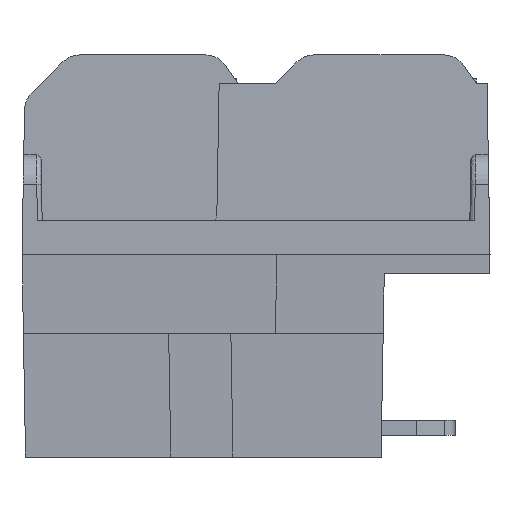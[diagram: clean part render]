
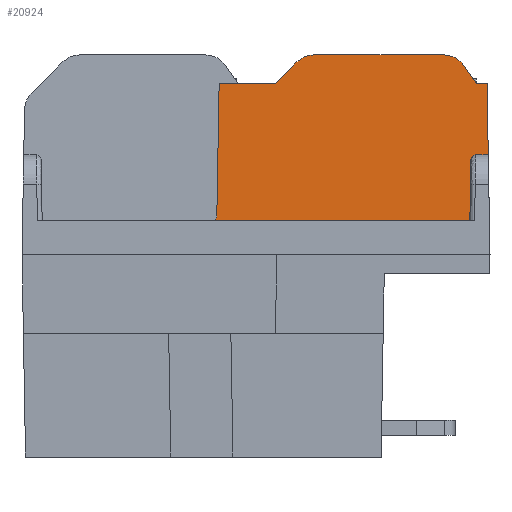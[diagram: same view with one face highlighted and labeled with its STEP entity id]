
A CAD part, left-side view. The second image highlights one B-rep face of the part: STEP entity #20924.
In plain terms, the highlighted planar face has unit normal (-1, 0, 0.018).
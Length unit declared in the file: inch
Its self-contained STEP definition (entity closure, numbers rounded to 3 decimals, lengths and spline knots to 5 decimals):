
#769=ELLIPSE('',#22205,0.01,0.01);
#776=ELLIPSE('',#22218,0.01,0.01);
#777=ELLIPSE('',#22219,0.05001,0.05);
#778=ELLIPSE('',#22220,0.05001,0.05);
#1201=FACE_OUTER_BOUND('',#2339,.T.);
#2339=EDGE_LOOP('',(#15105,#15106,#15107,#15108,#15109,#15110,#15111,#15112,
#15113,#15114,#15115,#15116,#15117,#15118));
#3323=LINE('',#28932,#5932);
#3420=LINE('',#29149,#6029);
#3944=LINE('',#30186,#6553);
#4165=LINE('',#30895,#6774);
#4176=LINE('',#30930,#6785);
#4177=LINE('',#30933,#6786);
#4178=LINE('',#30936,#6787);
#4179=LINE('',#30938,#6788);
#4180=LINE('',#30942,#6789);
#4181=LINE('',#30945,#6790);
#5932=VECTOR('',#23468,0.3937);
#6029=VECTOR('',#23595,0.3937);
#6553=VECTOR('',#24413,0.3937);
#6774=VECTOR('',#24780,0.3937);
#6785=VECTOR('',#24811,0.3937);
#6786=VECTOR('',#24814,0.3937);
#6787=VECTOR('',#24817,0.3937);
#6788=VECTOR('',#24818,0.3937);
#6789=VECTOR('',#24821,0.3937);
#6790=VECTOR('',#24824,0.3937);
#8535=VERTEX_POINT('',#28929);
#8536=VERTEX_POINT('',#28931);
#8628=VERTEX_POINT('',#29147);
#8993=VERTEX_POINT('',#30183);
#8994=VERTEX_POINT('',#30185);
#9166=VERTEX_POINT('',#30888);
#9167=VERTEX_POINT('',#30890);
#9168=VERTEX_POINT('',#30894);
#9183=VERTEX_POINT('',#30932);
#9184=VERTEX_POINT('',#30934);
#9185=VERTEX_POINT('',#30937);
#9186=VERTEX_POINT('',#30939);
#9187=VERTEX_POINT('',#30941);
#9188=VERTEX_POINT('',#30943);
#10555=EDGE_CURVE('',#8535,#8536,#3323,.T.);
#10657=EDGE_CURVE('',#8628,#8535,#3420,.T.);
#11183=EDGE_CURVE('',#8993,#8994,#3944,.T.);
#11440=EDGE_CURVE('',#9166,#9167,#769,.T.);
#11442=EDGE_CURVE('',#9168,#9166,#4165,.T.);
#11461=EDGE_CURVE('',#8993,#9167,#4176,.T.);
#11462=EDGE_CURVE('',#9183,#9168,#4177,.F.);
#11463=EDGE_CURVE('',#9184,#9183,#776,.F.);
#11464=EDGE_CURVE('',#8536,#9184,#4178,.F.);
#11465=EDGE_CURVE('',#9185,#8628,#4179,.T.);
#11466=EDGE_CURVE('',#9186,#9185,#777,.T.);
#11467=EDGE_CURVE('',#9187,#9186,#4180,.T.);
#11468=EDGE_CURVE('',#9188,#9187,#778,.T.);
#11469=EDGE_CURVE('',#8994,#9188,#4181,.T.);
#15105=ORIENTED_EDGE('',*,*,#11461,.T.);
#15106=ORIENTED_EDGE('',*,*,#11440,.F.);
#15107=ORIENTED_EDGE('',*,*,#11442,.F.);
#15108=ORIENTED_EDGE('',*,*,#11462,.F.);
#15109=ORIENTED_EDGE('',*,*,#11463,.F.);
#15110=ORIENTED_EDGE('',*,*,#11464,.F.);
#15111=ORIENTED_EDGE('',*,*,#10555,.F.);
#15112=ORIENTED_EDGE('',*,*,#10657,.F.);
#15113=ORIENTED_EDGE('',*,*,#11465,.F.);
#15114=ORIENTED_EDGE('',*,*,#11466,.F.);
#15115=ORIENTED_EDGE('',*,*,#11467,.F.);
#15116=ORIENTED_EDGE('',*,*,#11468,.F.);
#15117=ORIENTED_EDGE('',*,*,#11469,.F.);
#15118=ORIENTED_EDGE('',*,*,#11183,.F.);
#20027=PLANE('',#22217);
#20924=ADVANCED_FACE('',(#1201),#20027,.F.);
#22205=AXIS2_PLACEMENT_3D('',#30891,#24775,#24776);
#22217=AXIS2_PLACEMENT_3D('',#30931,#24812,#24813);
#22218=AXIS2_PLACEMENT_3D('',#30935,#24815,#24816);
#22219=AXIS2_PLACEMENT_3D('',#30940,#24819,#24820);
#22220=AXIS2_PLACEMENT_3D('',#30944,#24822,#24823);
#23468=DIRECTION('',(-0.017,-0.017,-1.));
#23595=DIRECTION('',(0.,-1.,0.));
#24413=DIRECTION('',(0.,-1.,0.));
#24775=DIRECTION('center_axis',(-1.,0.,0.017));
#24776=DIRECTION('ref_axis',(-0.017,0.,-1.));
#24780=DIRECTION('',(0.,1.,0.));
#24811=DIRECTION('',(-0.017,0.017,-1.));
#24812=DIRECTION('center_axis',(1.,0.,-0.017));
#24813=DIRECTION('ref_axis',(-0.017,0.,-1.));
#24814=DIRECTION('',(0.017,-0.017,1.));
#24815=DIRECTION('center_axis',(1.,0.,-0.017));
#24816=DIRECTION('ref_axis',(0.017,0.,1.));
#24817=DIRECTION('',(0.,-1.,0.));
#24818=DIRECTION('',(-0.014,-0.574,-0.819));
#24819=DIRECTION('center_axis',(1.,0.,-0.017));
#24820=DIRECTION('ref_axis',(0.017,0.,1.));
#24821=DIRECTION('',(0.,-1.,0.));
#24822=DIRECTION('center_axis',(1.,0.,-0.017));
#24823=DIRECTION('ref_axis',(0.017,0.,1.));
#24824=DIRECTION('',(0.012,-0.707,0.707));
#28929=CARTESIAN_POINT('',(0.46647,0.00698,0.4));
#28931=CARTESIAN_POINT('',(0.46386,0.00436,0.25));
#28932=CARTESIAN_POINT('',(0.46172,0.00223,0.12756));
#29147=CARTESIAN_POINT('',(0.46647,0.02896,0.4));
#29149=CARTESIAN_POINT('',(0.46647,0.26288,0.4));
#30183=CARTESIAN_POINT('',(0.46647,0.57,0.4));
#30185=CARTESIAN_POINT('',(0.46647,0.45171,0.4));
#30186=CARTESIAN_POINT('',(0.46647,0.51338,0.4));
#30888=CARTESIAN_POINT('',(0.46145,0.58485,0.112));
#30890=CARTESIAN_POINT('',(0.46162,0.57486,0.12183));
#30891=CARTESIAN_POINT('Origin',(0.46162,0.58485,0.122));
#30894=CARTESIAN_POINT('',(0.46145,0.04305,0.112));
#30895=CARTESIAN_POINT('',(0.46145,0.49465,0.112));
#30930=CARTESIAN_POINT('',(0.46171,0.57476,0.12727));
#30931=CARTESIAN_POINT('Origin',(0.46234,0.49681,0.16345));
#30932=CARTESIAN_POINT('',(0.46368,0.04081,0.24017));
#30933=CARTESIAN_POINT('',(0.46078,0.04371,0.07375));
#30934=CARTESIAN_POINT('',(0.46386,0.03081,0.25));
#30935=CARTESIAN_POINT('Origin',(0.46368,0.03081,0.24));
#30936=CARTESIAN_POINT('',(0.46386,0.25965,0.25));
#30937=CARTESIAN_POINT('',(0.46715,0.05604,0.43868));
#30938=CARTESIAN_POINT('',(0.46734,0.06384,0.44982));
#30939=CARTESIAN_POINT('',(0.46752,0.097,0.46));
#30940=CARTESIAN_POINT('Origin',(0.46665,0.097,0.41));
#30941=CARTESIAN_POINT('',(0.46752,0.371,0.46));
#30942=CARTESIAN_POINT('',(0.46752,0.4339,0.46));
#30943=CARTESIAN_POINT('',(0.46727,0.40636,0.44536));
#30944=CARTESIAN_POINT('Origin',(0.46665,0.371,0.41));
#30945=CARTESIAN_POINT('',(0.46524,0.52215,0.32956));
